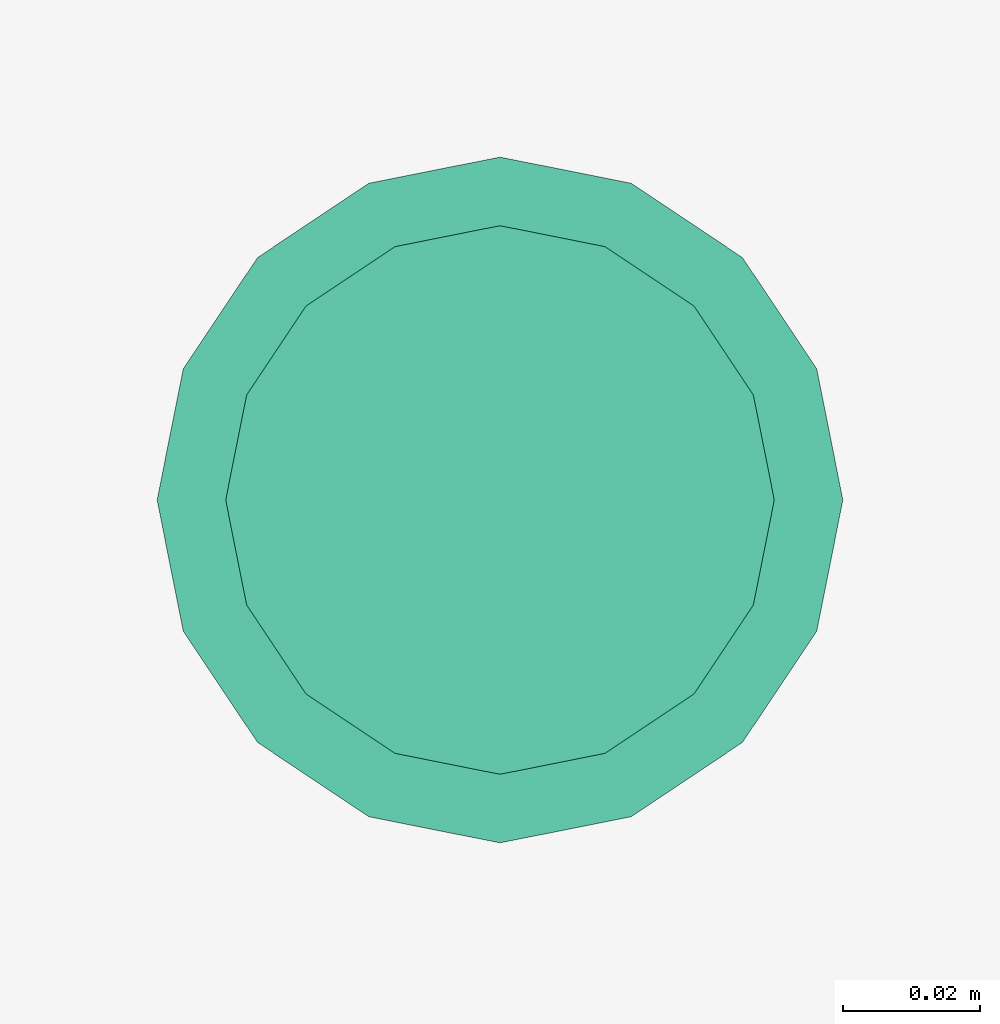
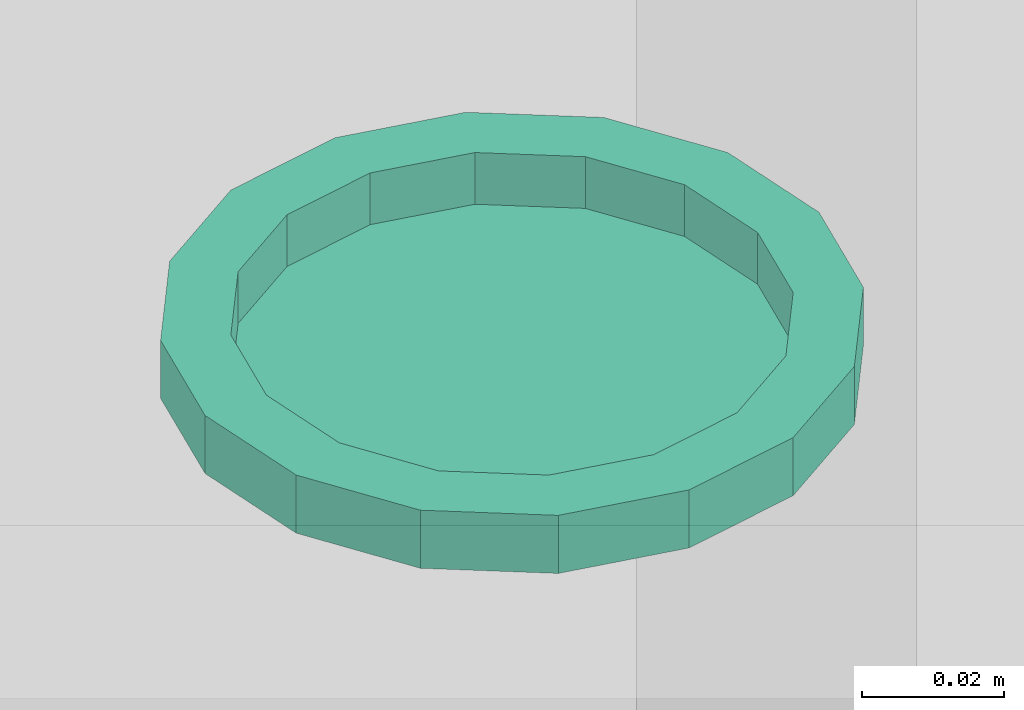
# One storey, part 252 of 347: 1 flow terminal.
"""IFC2X3 building model written with IfcOpenShell, lengths in millimetres."""

from ifc_helpers import new_model, entity, si_unit, converted_unit, derived_unit, money_unit, direction, frame, origin_with_axes, place, context, subcontext, project, spatial, open_shell, faceted_brep, surface_model, source, transform, mapped, type_object, type_shapes, element, save


model = new_model("IFC2X3")

# Units and contexts
model_context = context("Model", 3, precision=0.01, world=origin_with_axes(), true_north=direction((0.0, 1.0)))
plan_context = context("Plan", 3, precision=0.01, world=origin_with_axes(), true_north=direction((0.0, 1.0)))
body_context = subcontext(model_context, "Body", "Model", "MODEL_VIEW")
ifc_project = project(units=[si_unit("LENGTHUNIT", "METRE", prefix="MILLI"), si_unit("AREAUNIT", "SQUARE_METRE"), si_unit("VOLUMEUNIT", "CUBIC_METRE"), converted_unit("PLANEANGLEUNIT", "DEGREE", entity("IfcPlaneAngleMeasure", 0.0174532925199), si_unit("PLANEANGLEUNIT", "RADIAN"), dimensions=[0, 0, 0, 0, 0, 0, 0]), money_unit("EUR"), converted_unit("TIMEUNIT", "Year", entity("IfcTimeMeasure", 31556926.0), si_unit("TIMEUNIT", "SECOND"), dimensions=[0, 0, 1, 0, 0, 0, 0]), si_unit("MASSUNIT", "GRAM", prefix="KILO"), si_unit("THERMODYNAMICTEMPERATUREUNIT", "DEGREE_CELSIUS"), si_unit("LUMINOUSINTENSITYUNIT", "LUMEN"), si_unit("ENERGYUNIT", "JOULE", prefix="MEGA"), derived_unit("THERMALCONDUCTANCEUNIT", [(si_unit("POWERUNIT", "WATT"), 1), (si_unit("LENGTHUNIT", "METRE"), -1), (si_unit("THERMODYNAMICTEMPERATUREUNIT", "KELVIN"), -1)]), derived_unit("SPECIFICHEATCAPACITYUNIT", [(si_unit("ENERGYUNIT", "JOULE"), 1), (si_unit("MASSUNIT", "GRAM", prefix="KILO"), -1), (si_unit("THERMODYNAMICTEMPERATUREUNIT", "KELVIN"), -1)]), derived_unit("MASSDENSITYUNIT", [(si_unit("MASSUNIT", "GRAM", prefix="KILO"), 1), (si_unit("VOLUMEUNIT", "CUBIC_METRE"), -1)])], contexts=[model_context, plan_context])

# Site, building, storey
site_placement = place(None, origin_with_axes())
site = spatial("IfcSite", under=ifc_project, at=site_placement, Name="Site", CompositionType="ELEMENT")
building_placement = place(site_placement, origin_with_axes())
building = spatial("IfcBuilding", under=site, at=building_placement, Name="Naam gebouw", CompositionType="ELEMENT")
storey_placement = place(building_placement, origin_with_axes())
storey = spatial("IfcBuildingStorey", under=building, at=storey_placement, Name="begane grond", CompositionType="ELEMENT", Elevation=0.0)

# Flow terminal
lamp_type = type_object("IfcLampType", Name="Spot plafond 01 25", PredefinedType="NOTDEFINED")
shared_shape = source(origin_with_axes(), body_context, "Body", "SurfaceModel", [
    faceted_brep([(50.0, 0.0, -10.0), (46.1939766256, 19.1341716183, -10.0), (46.1939766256, 19.1341716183, 0.0), (50.0, 0.0, 0.0), (46.1939766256, -19.1341716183, -10.0), (35.3553390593, -35.3553390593, -10.0), (19.1341716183, -46.1939766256, -10.0), (0.0, -50.0, -10.0), (-19.1341716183, -46.1939766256, -10.0), (-35.3553390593, -35.3553390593, -10.0), (-46.1939766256, -19.1341716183, -10.0), (-50.0, 0.0, -10.0), (-46.1939766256, 19.1341716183, -10.0), (-35.3553390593, 35.3553390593, -10.0), (-19.1341716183, 46.1939766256, -10.0), (0.0, 50.0, -10.0), (19.1341716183, 46.1939766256, -10.0), (35.3553390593, 35.3553390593, -10.0), (40.0, 0.0, -10.0), (36.9551813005, 15.3073372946, -10.0), (28.2842712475, 28.2842712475, -10.0), (15.3073372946, 36.9551813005, -10.0), (0.0, 40.0, -10.0), (-15.3073372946, 36.9551813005, -10.0), (-28.2842712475, 28.2842712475, -10.0), (-36.9551813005, 15.3073372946, -10.0), (-40.0, 0.0, -10.0), (-36.9551813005, -15.3073372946, -10.0), (-28.2842712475, -28.2842712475, -10.0), (-15.3073372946, -36.9551813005, -10.0), (0.0, -40.0, -10.0), (15.3073372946, -36.9551813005, -10.0), (28.2842712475, -28.2842712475, -10.0), (36.9551813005, -15.3073372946, -10.0), (35.3553390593, 35.3553390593, 0.0), (19.1341716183, 46.1939766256, 0.0), (0.0, 50.0, 0.0), (-19.1341716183, 46.1939766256, 0.0), (-35.3553390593, 35.3553390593, 0.0), (-46.1939766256, 19.1341716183, 0.0), (-50.0, 0.0, 0.0), (-46.1939766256, -19.1341716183, 0.0), (-35.3553390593, -35.3553390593, 0.0), (-19.1341716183, -46.1939766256, 0.0), (0.0, -50.0, 0.0), (19.1341716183, -46.1939766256, 0.0), (35.3553390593, -35.3553390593, 0.0), (46.1939766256, -19.1341716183, 0.0), (40.0, 0.0, 0.0), (36.9551813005, -15.3073372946, 0.0), (28.2842712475, -28.2842712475, 0.0), (15.3073372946, -36.9551813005, 0.0), (0.0, -40.0, 0.0), (-15.3073372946, -36.9551813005, 0.0), (-28.2842712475, -28.2842712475, 0.0), (-36.9551813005, -15.3073372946, 0.0), (-40.0, 0.0, 0.0), (-36.9551813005, 15.3073372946, 0.0), (-28.2842712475, 28.2842712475, 0.0), (-15.3073372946, 36.9551813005, 0.0), (0.0, 40.0, 0.0), (15.3073372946, 36.9551813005, 0.0), (28.2842712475, 28.2842712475, 0.0), (36.9551813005, 15.3073372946, 0.0)], [[[0, 1, 2, 3]], [[0, 4, 5, 6, 7, 8, 9, 10, 11, 12, 13, 14, 15, 16, 17, 1], [18, 19, 20, 21, 22, 23, 24, 25, 26, 27, 28, 29, 30, 31, 32, 33]], [[1, 17, 34, 2]], [[3, 2, 34, 35, 36, 37, 38, 39, 40, 41, 42, 43, 44, 45, 46, 47], [48, 49, 50, 51, 52, 53, 54, 55, 56, 57, 58, 59, 60, 61, 62, 63]], [[4, 0, 3, 47]], [[5, 4, 47, 46]], [[6, 5, 46, 45]], [[7, 6, 45, 44]], [[8, 7, 44, 43]], [[9, 8, 43, 42]], [[10, 9, 42, 41]], [[11, 10, 41, 40]], [[12, 11, 40, 39]], [[13, 12, 39, 38]], [[14, 13, 38, 37]], [[15, 14, 37, 36]], [[16, 15, 36, 35]], [[17, 16, 35, 34]], [[19, 18, 48, 63]], [[20, 19, 63, 62]], [[21, 20, 62, 61]], [[22, 21, 61, 60]], [[23, 22, 60, 59]], [[24, 23, 59, 58]], [[25, 24, 58, 57]], [[26, 25, 57, 56]], [[27, 26, 56, 55]], [[28, 27, 55, 54]], [[29, 28, 54, 53]], [[30, 29, 53, 52]], [[31, 30, 52, 51]], [[32, 31, 51, 50]], [[33, 32, 50, 49]], [[18, 33, 49, 48]]]),
    surface_model("IfcShellBasedSurfaceModel", [(40.0, 0.0, -8.9), (36.9551813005, -15.3073372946, -8.9), (28.2842712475, -28.2842712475, -8.9), (15.3073372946, -36.9551813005, -8.9), (0.0, -40.0, -8.9), (-15.3073372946, -36.9551813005, -8.9), (-28.2842712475, -28.2842712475, -8.9), (-36.9551813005, -15.3073372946, -8.9), (-40.0, 0.0, -8.9), (-36.9551813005, 15.3073372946, -8.9), (-28.2842712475, 28.2842712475, -8.9), (-15.3073372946, 36.9551813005, -8.9), (0.0, 40.0, -8.9), (15.3073372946, 36.9551813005, -8.9), (28.2842712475, 28.2842712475, -8.9), (36.9551813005, 15.3073372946, -8.9)], [open_shell([[[0, 1, 2, 3, 4, 5, 6, 7, 8, 9, 10, 11, 12, 13, 14, 15]]])]),
])
type_shapes(lamp_type, [shared_shape])
flow_terminal_placement = place(storey_placement, frame((38875.0, 29024.9999638, 2600.0), z_axis=(0.0, 0.0, 1.0), x_axis=(1.0, 0.0, 0.0)))
element("IfcFlowTerminal", 1, at=flow_terminal_placement, inside=storey, type_object=lamp_type, Name="63_Lamp-x", ObjectType="Lamp", context=body_context, shape_type="MappedRepresentation", body=[
    mapped(shared_shape, transform((0.0, 0.0, 0.0))),
])

save(model, "model.ifc")
